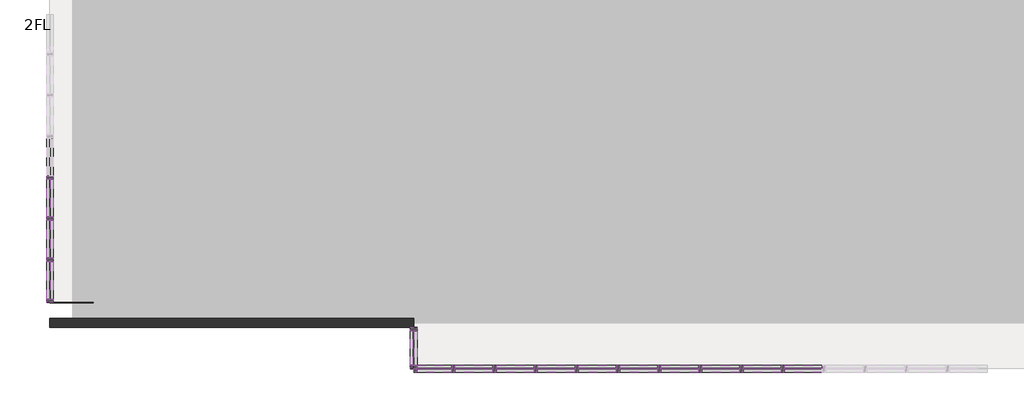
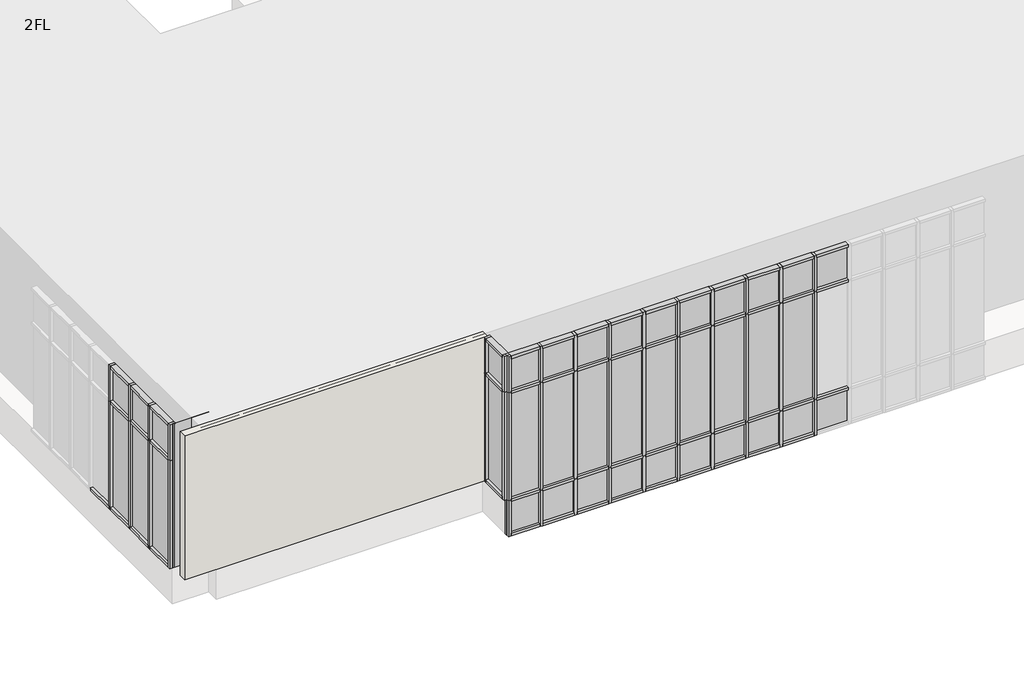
# One storey, part 1 of 4: 94 members, 39 plates, 1 wall.
"""IFC4 building model written with IfcOpenShell, lengths in millimetres."""

from ifc_helpers import new_model, si_unit, origin, place, context, project, spatial, faceted_brep, transform, mapped, element, save
from components import member_70x150_cdd4dcf9, member_70x150_9a135ce4, member_70x150_66cf63de, member_70x150_26475b18, member_70x150_ad4265bc, member_70x150_e0eddb57, member_70x150_1b280ac3, member_70x150_76429c73, plate_d1366ea1, plate_ab860a3c, plate_28587fd3, plate_4b01b467, plate_396bcf3c, plate_83f08a3e, plate_a71482e5, plate_3004b3b1

model = new_model("IFC4")

# Units and contexts
model_context = context("Model", 3, world=origin())
ifc_project = project(units=[si_unit("LENGTHUNIT", "METRE", prefix="MILLI")], contexts=[model_context])

# Site, building, storey
site = spatial("IfcSite", under=ifc_project)
building = spatial("IfcBuilding", under=site)
storey = spatial("IfcBuildingStorey", under=building, Name="2FL", Elevation=4600.0)

# Members
placement = place(None, origin())
member_70x150_shape = member_70x150_cdd4dcf9(model_context)
element("IfcMember", 1, ObjectType="長方形のマリオン : 70x150", at=placement, inside=storey, context=model_context, shape_type="MappedRepresentation", body=[
    mapped(member_70x150_shape, transform((-29345.9784025, -365.3131013, 4600.0), x_axis=(0.0, 1.0, 0.0), y_axis=(1.0, 0.0, 0.0), z_axis=(0.0, 0.0, -1.0))),
])
element("IfcMember", 2, ObjectType="長方形のマリオン : 70x150", at=placement, inside=storey, context=model_context, shape_type="MappedRepresentation", body=[
    mapped(member_70x150_shape, transform((-29345.9784025, -1265.3131013, 4600.0), x_axis=(0.0, 1.0, 0.0), y_axis=(1.0, 0.0, 0.0), z_axis=(0.0, 0.0, -1.0))),
])
element("IfcMember", 3, ObjectType="長方形のマリオン : 70x150", at=placement, inside=storey, context=model_context, shape_type="MappedRepresentation", body=[
    mapped(member_70x150_shape, transform((-29345.9784025, -2165.3131013, 4600.0), x_axis=(0.0, 1.0, 0.0), y_axis=(1.0, 0.0, 0.0), z_axis=(0.0, 0.0, -1.0))),
])
member_70x150_2_shape = member_70x150_9a135ce4(model_context)
element("IfcMember", 4, ObjectType="長方形のマリオン : 70x150", at=placement, inside=storey, context=model_context, shape_type="MappedRepresentation", body=[
    mapped(member_70x150_2_shape, transform((-21325.9784025, -4550.3131013, 8600.0), x_axis=(0.0, 0.0, 1.0), y_axis=(0.0, 1.0, 0.0), z_axis=(-1.0, 0.0, 0.0))),
])
element("IfcMember", 5, ObjectType="長方形のマリオン : 70x150", at=placement, inside=storey, context=model_context, shape_type="MappedRepresentation", body=[
    mapped(member_70x150_2_shape, transform((-21395.9784025, -3720.3131013, 8600.0), x_axis=(0.0, 0.0, 1.0), y_axis=(1.0, 0.0, 0.0), z_axis=(0.0, 1.0, 0.0))),
])
member_70x150_3_shape = member_70x150_66cf63de(model_context)
element("IfcMember", 6, ObjectType="長方形のマリオン : 70x150", at=placement, inside=storey, context=model_context, shape_type="MappedRepresentation", body=[
    mapped(member_70x150_3_shape, transform((-19665.9784025, -4550.3131013, 3600.0), x_axis=(0.0, 0.0, -1.0), y_axis=(0.0, 1.0, 0.0), z_axis=(1.0, 0.0, 0.0))),
])
element("IfcMember", 7, ObjectType="長方形のマリオン : 70x150", at=placement, inside=storey, context=model_context, shape_type="MappedRepresentation", body=[
    mapped(member_70x150_3_shape, transform((-18765.9784025, -4550.3131013, 3600.0), x_axis=(0.0, 0.0, -1.0), y_axis=(0.0, 1.0, 0.0), z_axis=(1.0, 0.0, 0.0))),
])
element("IfcMember", 8, ObjectType="長方形のマリオン : 70x150", at=placement, inside=storey, context=model_context, shape_type="MappedRepresentation", body=[
    mapped(member_70x150_3_shape, transform((-17865.9784025, -4550.3131013, 3600.0), x_axis=(0.0, 0.0, -1.0), y_axis=(0.0, 1.0, 0.0), z_axis=(1.0, 0.0, 0.0))),
])
element("IfcMember", 9, ObjectType="長方形のマリオン : 70x150", at=placement, inside=storey, context=model_context, shape_type="MappedRepresentation", body=[
    mapped(member_70x150_3_shape, transform((-16965.9784025, -4550.3131013, 3600.0), x_axis=(0.0, 0.0, -1.0), y_axis=(0.0, 1.0, 0.0), z_axis=(1.0, 0.0, 0.0))),
])
element("IfcMember", 10, ObjectType="長方形のマリオン : 70x150", at=placement, inside=storey, context=model_context, shape_type="MappedRepresentation", body=[
    mapped(member_70x150_3_shape, transform((-16065.9784025, -4550.3131013, 3600.0), x_axis=(0.0, 0.0, -1.0), y_axis=(0.0, 1.0, 0.0), z_axis=(1.0, 0.0, 0.0))),
])
element("IfcMember", 11, ObjectType="長方形のマリオン : 70x150", at=placement, inside=storey, context=model_context, shape_type="MappedRepresentation", body=[
    mapped(member_70x150_3_shape, transform((-15165.9784025, -4550.3131013, 3600.0), x_axis=(0.0, 0.0, -1.0), y_axis=(0.0, 1.0, 0.0), z_axis=(1.0, 0.0, 0.0))),
])
element("IfcMember", 12, ObjectType="長方形のマリオン : 70x150", at=placement, inside=storey, context=model_context, shape_type="MappedRepresentation", body=[
    mapped(member_70x150_3_shape, transform((-14265.9784025, -4550.3131013, 3600.0), x_axis=(0.0, 0.0, -1.0), y_axis=(0.0, 1.0, 0.0), z_axis=(1.0, 0.0, 0.0))),
])
element("IfcMember", 13, ObjectType="長方形のマリオン : 70x150", at=placement, inside=storey, context=model_context, shape_type="MappedRepresentation", body=[
    mapped(member_70x150_3_shape, transform((-13365.9784025, -4550.3131013, 3600.0), x_axis=(0.0, 0.0, -1.0), y_axis=(0.0, 1.0, 0.0), z_axis=(1.0, 0.0, 0.0))),
])
element("IfcMember", 14, ObjectType="長方形のマリオン : 70x150", at=placement, inside=storey, context=model_context, shape_type="MappedRepresentation", body=[
    mapped(member_70x150_3_shape, transform((-29345.9784025, -330.3131013, 4600.0), x_axis=(0.0, 0.0, -1.0), y_axis=(1.0, 0.0, 0.0), z_axis=(0.0, -1.0, 0.0))),
])
element("IfcMember", 15, ObjectType="長方形のマリオン : 70x150", at=placement, inside=storey, context=model_context, shape_type="MappedRepresentation", body=[
    mapped(member_70x150_3_shape, transform((-29345.9784025, -1230.3131013, 4600.0), x_axis=(0.0, 0.0, -1.0), y_axis=(1.0, 0.0, 0.0), z_axis=(0.0, -1.0, 0.0))),
])
element("IfcMember", 16, ObjectType="長方形のマリオン : 70x150", at=placement, inside=storey, context=model_context, shape_type="MappedRepresentation", body=[
    mapped(member_70x150_3_shape, transform((-29345.9784025, -2130.3131013, 4600.0), x_axis=(0.0, 0.0, -1.0), y_axis=(1.0, 0.0, 0.0), z_axis=(0.0, -1.0, 0.0))),
])
element("IfcMember", 17, ObjectType="長方形のマリオン : 70x150", at=placement, inside=storey, context=model_context, shape_type="MappedRepresentation", body=[
    mapped(member_70x150_3_shape, transform((-29345.9784025, -3030.3131013, 4600.0), x_axis=(0.0, 0.0, -1.0), y_axis=(1.0, 0.0, 0.0), z_axis=(0.0, -1.0, 0.0))),
])
element("IfcMember", 18, ObjectType="長方形のマリオン : 70x150", at=placement, inside=storey, context=model_context, shape_type="MappedRepresentation", body=[
    mapped(member_70x150_3_shape, transform((-20495.9784025, -4550.3131013, 8600.0), x_axis=(0.0, 0.0, 1.0), y_axis=(0.0, 1.0, 0.0), z_axis=(-1.0, 0.0, 0.0))),
])
element("IfcMember", 19, ObjectType="長方形のマリオン : 70x150", at=placement, inside=storey, context=model_context, shape_type="MappedRepresentation", body=[
    mapped(member_70x150_3_shape, transform((-19595.9784025, -4550.3131013, 8600.0), x_axis=(0.0, 0.0, 1.0), y_axis=(0.0, 1.0, 0.0), z_axis=(-1.0, 0.0, 0.0))),
])
element("IfcMember", 20, ObjectType="長方形のマリオン : 70x150", at=placement, inside=storey, context=model_context, shape_type="MappedRepresentation", body=[
    mapped(member_70x150_3_shape, transform((-18695.9784025, -4550.3131013, 8600.0), x_axis=(0.0, 0.0, 1.0), y_axis=(0.0, 1.0, 0.0), z_axis=(-1.0, 0.0, 0.0))),
])
element("IfcMember", 21, ObjectType="長方形のマリオン : 70x150", at=placement, inside=storey, context=model_context, shape_type="MappedRepresentation", body=[
    mapped(member_70x150_3_shape, transform((-17795.9784025, -4550.3131013, 8600.0), x_axis=(0.0, 0.0, 1.0), y_axis=(0.0, 1.0, 0.0), z_axis=(-1.0, 0.0, 0.0))),
])
element("IfcMember", 22, ObjectType="長方形のマリオン : 70x150", at=placement, inside=storey, context=model_context, shape_type="MappedRepresentation", body=[
    mapped(member_70x150_3_shape, transform((-16895.9784025, -4550.3131013, 8600.0), x_axis=(0.0, 0.0, 1.0), y_axis=(0.0, 1.0, 0.0), z_axis=(-1.0, 0.0, 0.0))),
])
element("IfcMember", 23, ObjectType="長方形のマリオン : 70x150", at=placement, inside=storey, context=model_context, shape_type="MappedRepresentation", body=[
    mapped(member_70x150_3_shape, transform((-15995.9784025, -4550.3131013, 8600.0), x_axis=(0.0, 0.0, 1.0), y_axis=(0.0, 1.0, 0.0), z_axis=(-1.0, 0.0, 0.0))),
])
element("IfcMember", 24, ObjectType="長方形のマリオン : 70x150", at=placement, inside=storey, context=model_context, shape_type="MappedRepresentation", body=[
    mapped(member_70x150_3_shape, transform((-15095.9784025, -4550.3131013, 8600.0), x_axis=(0.0, 0.0, 1.0), y_axis=(0.0, 1.0, 0.0), z_axis=(-1.0, 0.0, 0.0))),
])
element("IfcMember", 25, ObjectType="長方形のマリオン : 70x150", at=placement, inside=storey, context=model_context, shape_type="MappedRepresentation", body=[
    mapped(member_70x150_3_shape, transform((-14195.9784025, -4550.3131013, 8600.0), x_axis=(0.0, 0.0, 1.0), y_axis=(0.0, 1.0, 0.0), z_axis=(-1.0, 0.0, 0.0))),
])
element("IfcMember", 26, ObjectType="長方形のマリオン : 70x150", at=placement, inside=storey, context=model_context, shape_type="MappedRepresentation", body=[
    mapped(member_70x150_3_shape, transform((-13295.9784025, -4550.3131013, 8600.0), x_axis=(0.0, 0.0, 1.0), y_axis=(0.0, 1.0, 0.0), z_axis=(-1.0, 0.0, 0.0))),
])
element("IfcMember", 27, ObjectType="長方形のマリオン : 70x150", at=placement, inside=storey, context=model_context, shape_type="MappedRepresentation", body=[
    mapped(member_70x150_3_shape, transform((-29345.9784025, -400.3131013, 8600.0), x_axis=(0.0, 0.0, 1.0), y_axis=(1.0, 0.0, 0.0), z_axis=(0.0, 1.0, 0.0))),
])
element("IfcMember", 28, ObjectType="長方形のマリオン : 70x150", at=placement, inside=storey, context=model_context, shape_type="MappedRepresentation", body=[
    mapped(member_70x150_3_shape, transform((-29345.9784025, -1300.3131013, 8600.0), x_axis=(0.0, 0.0, 1.0), y_axis=(1.0, 0.0, 0.0), z_axis=(0.0, 1.0, 0.0))),
])
element("IfcMember", 29, ObjectType="長方形のマリオン : 70x150", at=placement, inside=storey, context=model_context, shape_type="MappedRepresentation", body=[
    mapped(member_70x150_3_shape, transform((-29345.9784025, -2200.3131013, 8600.0), x_axis=(0.0, 0.0, 1.0), y_axis=(1.0, 0.0, 0.0), z_axis=(0.0, 1.0, 0.0))),
])
element("IfcMember", 30, ObjectType="長方形のマリオン : 70x150", at=placement, inside=storey, context=model_context, shape_type="MappedRepresentation", body=[
    mapped(member_70x150_2_shape, transform((-20565.9784025, -4550.3131013, 3600.0), x_axis=(0.0, 0.0, -1.0), y_axis=(0.0, 1.0, 0.0), z_axis=(1.0, 0.0, 0.0))),
])
element("IfcMember", 31, ObjectType="長方形のマリオン : 70x150", at=placement, inside=storey, context=model_context, shape_type="MappedRepresentation", body=[
    mapped(member_70x150_2_shape, transform((-21395.9784025, -4480.3131013, 4600.0), x_axis=(0.0, 0.0, -1.0), y_axis=(1.0, 0.0, 0.0), z_axis=(0.0, -1.0, 0.0))),
])
member_70x150_4_shape = member_70x150_26475b18(model_context)
element("IfcMember", 32, ObjectType="長方形のマリオン : 70x150", at=placement, inside=storey, context=model_context, shape_type="MappedRepresentation", body=[
    mapped(member_70x150_4_shape, transform((-16030.9784025, -4550.3131013, 7600.0), x_axis=(-1.0, 0.0, 0.0), y_axis=(0.0, 1.0, 0.0), z_axis=(0.0, 0.0, -1.0))),
])
element("IfcMember", 33, ObjectType="長方形のマリオン : 70x150", at=placement, inside=storey, context=model_context, shape_type="MappedRepresentation", body=[
    mapped(member_70x150_4_shape, transform((-15130.9784025, -4550.3131013, 7600.0), x_axis=(-1.0, 0.0, 0.0), y_axis=(0.0, 1.0, 0.0), z_axis=(0.0, 0.0, -1.0))),
])
element("IfcMember", 34, ObjectType="長方形のマリオン : 70x150", at=placement, inside=storey, context=model_context, shape_type="MappedRepresentation", body=[
    mapped(member_70x150_4_shape, transform((-14230.9784025, -4550.3131013, 7600.0), x_axis=(-1.0, 0.0, 0.0), y_axis=(0.0, 1.0, 0.0), z_axis=(0.0, 0.0, -1.0))),
])
element("IfcMember", 35, ObjectType="長方形のマリオン : 70x150", at=placement, inside=storey, context=model_context, shape_type="MappedRepresentation", body=[
    mapped(member_70x150_4_shape, transform((-13330.9784025, -4550.3131013, 7600.0), x_axis=(-1.0, 0.0, 0.0), y_axis=(0.0, 1.0, 0.0), z_axis=(0.0, 0.0, -1.0))),
])
element("IfcMember", 36, ObjectType="長方形のマリオン : 70x150", at=placement, inside=storey, context=model_context, shape_type="MappedRepresentation", body=[
    mapped(member_70x150_4_shape, transform((-20530.9784025, -4550.3131013, 7600.0), x_axis=(-1.0, 0.0, 0.0), y_axis=(0.0, 1.0, 0.0), z_axis=(0.0, 0.0, -1.0))),
])
element("IfcMember", 37, ObjectType="長方形のマリオン : 70x150", at=placement, inside=storey, context=model_context, shape_type="MappedRepresentation", body=[
    mapped(member_70x150_4_shape, transform((-19630.9784025, -4550.3131013, 7600.0), x_axis=(-1.0, 0.0, 0.0), y_axis=(0.0, 1.0, 0.0), z_axis=(0.0, 0.0, -1.0))),
])
element("IfcMember", 38, ObjectType="長方形のマリオン : 70x150", at=placement, inside=storey, context=model_context, shape_type="MappedRepresentation", body=[
    mapped(member_70x150_4_shape, transform((-18730.9784025, -4550.3131013, 7600.0), x_axis=(-1.0, 0.0, 0.0), y_axis=(0.0, 1.0, 0.0), z_axis=(0.0, 0.0, -1.0))),
])
element("IfcMember", 39, ObjectType="長方形のマリオン : 70x150", at=placement, inside=storey, context=model_context, shape_type="MappedRepresentation", body=[
    mapped(member_70x150_4_shape, transform((-17830.9784025, -4550.3131013, 7600.0), x_axis=(-1.0, 0.0, 0.0), y_axis=(0.0, 1.0, 0.0), z_axis=(0.0, 0.0, -1.0))),
])
element("IfcMember", 40, ObjectType="長方形のマリオン : 70x150", at=placement, inside=storey, context=model_context, shape_type="MappedRepresentation", body=[
    mapped(member_70x150_4_shape, transform((-16930.9784025, -4550.3131013, 7600.0), x_axis=(-1.0, 0.0, 0.0), y_axis=(0.0, 1.0, 0.0), z_axis=(0.0, 0.0, -1.0))),
])
element("IfcMember", 41, ObjectType="長方形のマリオン : 70x150", at=placement, inside=storey, context=model_context, shape_type="MappedRepresentation", body=[
    mapped(member_70x150_4_shape, transform((-29345.9784025, -1265.3131013, 7600.0), x_axis=(0.0, 1.0, 0.0), y_axis=(1.0, 0.0, 0.0), z_axis=(0.0, 0.0, -1.0))),
])
element("IfcMember", 42, ObjectType="長方形のマリオン : 70x150", at=placement, inside=storey, context=model_context, shape_type="MappedRepresentation", body=[
    mapped(member_70x150_4_shape, transform((-29345.9784025, -2165.3131013, 7600.0), x_axis=(0.0, 1.0, 0.0), y_axis=(1.0, 0.0, 0.0), z_axis=(0.0, 0.0, -1.0))),
])
element("IfcMember", 43, ObjectType="長方形のマリオン : 70x150", at=placement, inside=storey, context=model_context, shape_type="MappedRepresentation", body=[
    mapped(member_70x150_4_shape, transform((-29345.9784025, -365.3131013, 7600.0), x_axis=(0.0, 1.0, 0.0), y_axis=(1.0, 0.0, 0.0), z_axis=(0.0, 0.0, -1.0))),
])
member_70x150_5_shape = member_70x150_ad4265bc(model_context)
element("IfcMember", 44, ObjectType="長方形のマリオン : 70x150", at=placement, inside=storey, context=model_context, shape_type="MappedRepresentation", body=[
    mapped(member_70x150_5_shape, transform((-16895.9784025, -4550.3131013, 4600.0), x_axis=(0.0, 0.0, 1.0), y_axis=(0.0, 1.0, 0.0), z_axis=(-1.0, 0.0, 0.0))),
])
element("IfcMember", 45, ObjectType="長方形のマリオン : 70x150", at=placement, inside=storey, context=model_context, shape_type="MappedRepresentation", body=[
    mapped(member_70x150_5_shape, transform((-15995.9784025, -4550.3131013, 4600.0), x_axis=(0.0, 0.0, 1.0), y_axis=(0.0, 1.0, 0.0), z_axis=(-1.0, 0.0, 0.0))),
])
element("IfcMember", 46, ObjectType="長方形のマリオン : 70x150", at=placement, inside=storey, context=model_context, shape_type="MappedRepresentation", body=[
    mapped(member_70x150_5_shape, transform((-15095.9784025, -4550.3131013, 4600.0), x_axis=(0.0, 0.0, 1.0), y_axis=(0.0, 1.0, 0.0), z_axis=(-1.0, 0.0, 0.0))),
])
element("IfcMember", 47, ObjectType="長方形のマリオン : 70x150", at=placement, inside=storey, context=model_context, shape_type="MappedRepresentation", body=[
    mapped(member_70x150_5_shape, transform((-14195.9784025, -4550.3131013, 4600.0), x_axis=(0.0, 0.0, 1.0), y_axis=(0.0, 1.0, 0.0), z_axis=(-1.0, 0.0, 0.0))),
])
element("IfcMember", 48, ObjectType="長方形のマリオン : 70x150", at=placement, inside=storey, context=model_context, shape_type="MappedRepresentation", body=[
    mapped(member_70x150_5_shape, transform((-13295.9784025, -4550.3131013, 4600.0), x_axis=(0.0, 0.0, 1.0), y_axis=(0.0, 1.0, 0.0), z_axis=(-1.0, 0.0, 0.0))),
])
element("IfcMember", 49, ObjectType="長方形のマリオン : 70x150", at=placement, inside=storey, context=model_context, shape_type="MappedRepresentation", body=[
    mapped(member_70x150_5_shape, transform((-20495.9784025, -4550.3131013, 7600.0), x_axis=(0.0, 0.0, 1.0), y_axis=(0.0, 1.0, 0.0), z_axis=(-1.0, 0.0, 0.0))),
])
element("IfcMember", 50, ObjectType="長方形のマリオン : 70x150", at=placement, inside=storey, context=model_context, shape_type="MappedRepresentation", body=[
    mapped(member_70x150_5_shape, transform((-19595.9784025, -4550.3131013, 7600.0), x_axis=(0.0, 0.0, 1.0), y_axis=(0.0, 1.0, 0.0), z_axis=(-1.0, 0.0, 0.0))),
])
element("IfcMember", 51, ObjectType="長方形のマリオン : 70x150", at=placement, inside=storey, context=model_context, shape_type="MappedRepresentation", body=[
    mapped(member_70x150_5_shape, transform((-18695.9784025, -4550.3131013, 7600.0), x_axis=(0.0, 0.0, 1.0), y_axis=(0.0, 1.0, 0.0), z_axis=(-1.0, 0.0, 0.0))),
])
element("IfcMember", 52, ObjectType="長方形のマリオン : 70x150", at=placement, inside=storey, context=model_context, shape_type="MappedRepresentation", body=[
    mapped(member_70x150_5_shape, transform((-17795.9784025, -4550.3131013, 7600.0), x_axis=(0.0, 0.0, 1.0), y_axis=(0.0, 1.0, 0.0), z_axis=(-1.0, 0.0, 0.0))),
])
element("IfcMember", 53, ObjectType="長方形のマリオン : 70x150", at=placement, inside=storey, context=model_context, shape_type="MappedRepresentation", body=[
    mapped(member_70x150_5_shape, transform((-16895.9784025, -4550.3131013, 7600.0), x_axis=(0.0, 0.0, 1.0), y_axis=(0.0, 1.0, 0.0), z_axis=(-1.0, 0.0, 0.0))),
])
element("IfcMember", 54, ObjectType="長方形のマリオン : 70x150", at=placement, inside=storey, context=model_context, shape_type="MappedRepresentation", body=[
    mapped(member_70x150_5_shape, transform((-15995.9784025, -4550.3131013, 7600.0), x_axis=(0.0, 0.0, 1.0), y_axis=(0.0, 1.0, 0.0), z_axis=(-1.0, 0.0, 0.0))),
])
element("IfcMember", 55, ObjectType="長方形のマリオン : 70x150", at=placement, inside=storey, context=model_context, shape_type="MappedRepresentation", body=[
    mapped(member_70x150_5_shape, transform((-15095.9784025, -4550.3131013, 7600.0), x_axis=(0.0, 0.0, 1.0), y_axis=(0.0, 1.0, 0.0), z_axis=(-1.0, 0.0, 0.0))),
])
element("IfcMember", 56, ObjectType="長方形のマリオン : 70x150", at=placement, inside=storey, context=model_context, shape_type="MappedRepresentation", body=[
    mapped(member_70x150_5_shape, transform((-14195.9784025, -4550.3131013, 7600.0), x_axis=(0.0, 0.0, 1.0), y_axis=(0.0, 1.0, 0.0), z_axis=(-1.0, 0.0, 0.0))),
])
element("IfcMember", 57, ObjectType="長方形のマリオン : 70x150", at=placement, inside=storey, context=model_context, shape_type="MappedRepresentation", body=[
    mapped(member_70x150_5_shape, transform((-13295.9784025, -4550.3131013, 7600.0), x_axis=(0.0, 0.0, 1.0), y_axis=(0.0, 1.0, 0.0), z_axis=(-1.0, 0.0, 0.0))),
])
element("IfcMember", 58, ObjectType="長方形のマリオン : 70x150", at=placement, inside=storey, context=model_context, shape_type="MappedRepresentation", body=[
    mapped(member_70x150_5_shape, transform((-20495.9784025, -4550.3131013, 4600.0), x_axis=(0.0, 0.0, 1.0), y_axis=(0.0, 1.0, 0.0), z_axis=(-1.0, 0.0, 0.0))),
])
element("IfcMember", 59, ObjectType="長方形のマリオン : 70x150", at=placement, inside=storey, context=model_context, shape_type="MappedRepresentation", body=[
    mapped(member_70x150_5_shape, transform((-19595.9784025, -4550.3131013, 4600.0), x_axis=(0.0, 0.0, 1.0), y_axis=(0.0, 1.0, 0.0), z_axis=(-1.0, 0.0, 0.0))),
])
element("IfcMember", 60, ObjectType="長方形のマリオン : 70x150", at=placement, inside=storey, context=model_context, shape_type="MappedRepresentation", body=[
    mapped(member_70x150_5_shape, transform((-18695.9784025, -4550.3131013, 4600.0), x_axis=(0.0, 0.0, 1.0), y_axis=(0.0, 1.0, 0.0), z_axis=(-1.0, 0.0, 0.0))),
])
element("IfcMember", 61, ObjectType="長方形のマリオン : 70x150", at=placement, inside=storey, context=model_context, shape_type="MappedRepresentation", body=[
    mapped(member_70x150_5_shape, transform((-17795.9784025, -4550.3131013, 4600.0), x_axis=(0.0, 0.0, 1.0), y_axis=(0.0, 1.0, 0.0), z_axis=(-1.0, 0.0, 0.0))),
])
element("IfcMember", 62, ObjectType="長方形のマリオン : 70x150", at=placement, inside=storey, context=model_context, shape_type="MappedRepresentation", body=[
    mapped(member_70x150_5_shape, transform((-29345.9784025, -400.3131013, 7600.0), x_axis=(0.0, 0.0, 1.0), y_axis=(1.0, 0.0, 0.0), z_axis=(0.0, 1.0, 0.0))),
])
element("IfcMember", 63, ObjectType="長方形のマリオン : 70x150", at=placement, inside=storey, context=model_context, shape_type="MappedRepresentation", body=[
    mapped(member_70x150_5_shape, transform((-29345.9784025, -1300.3131013, 7600.0), x_axis=(0.0, 0.0, 1.0), y_axis=(1.0, 0.0, 0.0), z_axis=(0.0, 1.0, 0.0))),
])
element("IfcMember", 64, ObjectType="長方形のマリオン : 70x150", at=placement, inside=storey, context=model_context, shape_type="MappedRepresentation", body=[
    mapped(member_70x150_5_shape, transform((-29345.9784025, -2200.3131013, 7600.0), x_axis=(0.0, 0.0, 1.0), y_axis=(1.0, 0.0, 0.0), z_axis=(0.0, 1.0, 0.0))),
])
member_70x150_6_shape = member_70x150_e0eddb57(model_context)
element("IfcMember", 65, ObjectType="長方形のマリオン : 70x150", at=placement, inside=storey, context=model_context, shape_type="MappedRepresentation", body=[
    mapped(member_70x150_6_shape, transform((-21325.9784025, -4550.3131013, 7600.0), x_axis=(0.0, 0.0, 1.0), y_axis=(0.0, 1.0, 0.0), z_axis=(-1.0, 0.0, 0.0))),
])
element("IfcMember", 66, ObjectType="長方形のマリオン : 70x150", at=placement, inside=storey, context=model_context, shape_type="MappedRepresentation", body=[
    mapped(member_70x150_6_shape, transform((-21325.9784025, -4550.3131013, 4600.0), x_axis=(0.0, 0.0, 1.0), y_axis=(0.0, 1.0, 0.0), z_axis=(-1.0, 0.0, 0.0))),
])
element("IfcMember", 67, ObjectType="長方形のマリオン : 70x150", at=placement, inside=storey, context=model_context, shape_type="MappedRepresentation", body=[
    mapped(member_70x150_6_shape, transform((-21395.9784025, -3720.3131013, 7600.0), x_axis=(0.0, 0.0, 1.0), y_axis=(1.0, 0.0, 0.0), z_axis=(0.0, 1.0, 0.0))),
])
member_70x150_7_shape = member_70x150_1b280ac3(model_context)
element("IfcMember", 68, ObjectType="長方形のマリオン : 70x150", at=placement, inside=storey, context=model_context, shape_type="MappedRepresentation", body=[
    mapped(member_70x150_7_shape, transform((-21395.9784025, -3650.3131013, 4600.0), x_axis=(0.0, 1.0, 0.0), y_axis=(1.0, 0.0, 0.0), z_axis=(0.0, 0.0, -1.0))),
])
member_70x150_8_shape = member_70x150_76429c73(model_context)
element("IfcMember", 69, ObjectType="長方形のマリオン : 70x150", at=placement, inside=storey, context=model_context, shape_type="MappedRepresentation", body=[
    mapped(member_70x150_8_shape, transform((-21395.9784025, -4550.3131013, 8600.0), x_axis=(0.0, -1.0, 0.0), y_axis=(1.0, 0.0, 0.0), z_axis=(0.0, 0.0, 1.0))),
])
element("IfcMember", 70, ObjectType="長方形のマリオン : 70x150", at=placement, inside=storey, context=model_context, shape_type="MappedRepresentation", body=[
    mapped(member_70x150_8_shape, transform((-29345.9784025, -3100.3131013, 8600.0), x_axis=(0.0, -1.0, 0.0), y_axis=(1.0, 0.0, 0.0), z_axis=(0.0, 0.0, 1.0))),
])
element("IfcMember", 71, ObjectType="長方形のマリオン : 70x150", at=placement, inside=storey, context=model_context, shape_type="MappedRepresentation", body=[
    mapped(member_70x150_8_shape, transform((-21395.9784025, -4550.3131013, 7600.0), x_axis=(-1.0, 0.0, 0.0), y_axis=(0.0, 1.0, 0.0), z_axis=(0.0, 0.0, -1.0))),
])
element("IfcMember", 72, ObjectType="長方形のマリオン : 70x150", at=placement, inside=storey, context=model_context, shape_type="MappedRepresentation", body=[
    mapped(member_70x150_8_shape, transform((-21395.9784025, -3650.3131013, 7600.0), x_axis=(0.0, 1.0, 0.0), y_axis=(1.0, 0.0, 0.0), z_axis=(0.0, 0.0, -1.0))),
])
element("IfcMember", 73, ObjectType="長方形のマリオン : 70x150", at=placement, inside=storey, context=model_context, shape_type="MappedRepresentation", body=[
    mapped(member_70x150_7_shape, transform((-21395.9784025, -4550.3131013, 7600.0), x_axis=(0.0, -1.0, 0.0), y_axis=(1.0, 0.0, 0.0), z_axis=(0.0, 0.0, 1.0))),
])
element("IfcMember", 74, ObjectType="長方形のマリオン : 70x150", at=placement, inside=storey, context=model_context, shape_type="MappedRepresentation", body=[
    mapped(member_70x150_7_shape, transform((-29345.9784025, -3100.3131013, 7600.0), x_axis=(0.0, -1.0, 0.0), y_axis=(1.0, 0.0, 0.0), z_axis=(0.0, 0.0, 1.0))),
])
element("IfcMember", 75, ObjectType="長方形のマリオン : 70x150", at=placement, inside=storey, context=model_context, shape_type="MappedRepresentation", body=[
    mapped(member_70x150_4_shape, transform((-20530.9784025, -4550.3131013, 3600.0), x_axis=(-1.0, 0.0, 0.0), y_axis=(0.0, 1.0, 0.0), z_axis=(0.0, 0.0, -1.0))),
])
element("IfcMember", 76, ObjectType="長方形のマリオン : 70x150", at=placement, inside=storey, context=model_context, shape_type="MappedRepresentation", body=[
    mapped(member_70x150_4_shape, transform((-19630.9784025, -4550.3131013, 3600.0), x_axis=(-1.0, 0.0, 0.0), y_axis=(0.0, 1.0, 0.0), z_axis=(0.0, 0.0, -1.0))),
])
element("IfcMember", 77, ObjectType="長方形のマリオン : 70x150", at=placement, inside=storey, context=model_context, shape_type="MappedRepresentation", body=[
    mapped(member_70x150_4_shape, transform((-18730.9784025, -4550.3131013, 3600.0), x_axis=(-1.0, 0.0, 0.0), y_axis=(0.0, 1.0, 0.0), z_axis=(0.0, 0.0, -1.0))),
])
element("IfcMember", 78, ObjectType="長方形のマリオン : 70x150", at=placement, inside=storey, context=model_context, shape_type="MappedRepresentation", body=[
    mapped(member_70x150_4_shape, transform((-17830.9784025, -4550.3131013, 3600.0), x_axis=(-1.0, 0.0, 0.0), y_axis=(0.0, 1.0, 0.0), z_axis=(0.0, 0.0, -1.0))),
])
element("IfcMember", 79, ObjectType="長方形のマリオン : 70x150", at=placement, inside=storey, context=model_context, shape_type="MappedRepresentation", body=[
    mapped(member_70x150_4_shape, transform((-16930.9784025, -4550.3131013, 3600.0), x_axis=(-1.0, 0.0, 0.0), y_axis=(0.0, 1.0, 0.0), z_axis=(0.0, 0.0, -1.0))),
])
element("IfcMember", 80, ObjectType="長方形のマリオン : 70x150", at=placement, inside=storey, context=model_context, shape_type="MappedRepresentation", body=[
    mapped(member_70x150_4_shape, transform((-16030.9784025, -4550.3131013, 3600.0), x_axis=(-1.0, 0.0, 0.0), y_axis=(0.0, 1.0, 0.0), z_axis=(0.0, 0.0, -1.0))),
])
element("IfcMember", 81, ObjectType="長方形のマリオン : 70x150", at=placement, inside=storey, context=model_context, shape_type="MappedRepresentation", body=[
    mapped(member_70x150_4_shape, transform((-15130.9784025, -4550.3131013, 3600.0), x_axis=(-1.0, 0.0, 0.0), y_axis=(0.0, 1.0, 0.0), z_axis=(0.0, 0.0, -1.0))),
])
element("IfcMember", 82, ObjectType="長方形のマリオン : 70x150", at=placement, inside=storey, context=model_context, shape_type="MappedRepresentation", body=[
    mapped(member_70x150_4_shape, transform((-14230.9784025, -4550.3131013, 3600.0), x_axis=(-1.0, 0.0, 0.0), y_axis=(0.0, 1.0, 0.0), z_axis=(0.0, 0.0, -1.0))),
])
element("IfcMember", 83, ObjectType="長方形のマリオン : 70x150", at=placement, inside=storey, context=model_context, shape_type="MappedRepresentation", body=[
    mapped(member_70x150_4_shape, transform((-13330.9784025, -4550.3131013, 3600.0), x_axis=(-1.0, 0.0, 0.0), y_axis=(0.0, 1.0, 0.0), z_axis=(0.0, 0.0, -1.0))),
])
element("IfcMember", 84, ObjectType="長方形のマリオン : 70x150", at=placement, inside=storey, context=model_context, shape_type="MappedRepresentation", body=[
    mapped(member_70x150_shape, transform((-16030.9784025, -4550.3131013, 4600.0), x_axis=(-1.0, 0.0, 0.0), y_axis=(0.0, 1.0, 0.0), z_axis=(0.0, 0.0, -1.0))),
])
element("IfcMember", 85, ObjectType="長方形のマリオン : 70x150", at=placement, inside=storey, context=model_context, shape_type="MappedRepresentation", body=[
    mapped(member_70x150_shape, transform((-15130.9784025, -4550.3131013, 4600.0), x_axis=(-1.0, 0.0, 0.0), y_axis=(0.0, 1.0, 0.0), z_axis=(0.0, 0.0, -1.0))),
])
element("IfcMember", 86, ObjectType="長方形のマリオン : 70x150", at=placement, inside=storey, context=model_context, shape_type="MappedRepresentation", body=[
    mapped(member_70x150_shape, transform((-14230.9784025, -4550.3131013, 4600.0), x_axis=(-1.0, 0.0, 0.0), y_axis=(0.0, 1.0, 0.0), z_axis=(0.0, 0.0, -1.0))),
])
element("IfcMember", 87, ObjectType="長方形のマリオン : 70x150", at=placement, inside=storey, context=model_context, shape_type="MappedRepresentation", body=[
    mapped(member_70x150_shape, transform((-13330.9784025, -4550.3131013, 4600.0), x_axis=(-1.0, 0.0, 0.0), y_axis=(0.0, 1.0, 0.0), z_axis=(0.0, 0.0, -1.0))),
])
element("IfcMember", 88, ObjectType="長方形のマリオン : 70x150", at=placement, inside=storey, context=model_context, shape_type="MappedRepresentation", body=[
    mapped(member_70x150_shape, transform((-20530.9784025, -4550.3131013, 4600.0), x_axis=(-1.0, 0.0, 0.0), y_axis=(0.0, 1.0, 0.0), z_axis=(0.0, 0.0, -1.0))),
])
element("IfcMember", 89, ObjectType="長方形のマリオン : 70x150", at=placement, inside=storey, context=model_context, shape_type="MappedRepresentation", body=[
    mapped(member_70x150_shape, transform((-19630.9784025, -4550.3131013, 4600.0), x_axis=(-1.0, 0.0, 0.0), y_axis=(0.0, 1.0, 0.0), z_axis=(0.0, 0.0, -1.0))),
])
element("IfcMember", 90, ObjectType="長方形のマリオン : 70x150", at=placement, inside=storey, context=model_context, shape_type="MappedRepresentation", body=[
    mapped(member_70x150_shape, transform((-18730.9784025, -4550.3131013, 4600.0), x_axis=(-1.0, 0.0, 0.0), y_axis=(0.0, 1.0, 0.0), z_axis=(0.0, 0.0, -1.0))),
])
element("IfcMember", 91, ObjectType="長方形のマリオン : 70x150", at=placement, inside=storey, context=model_context, shape_type="MappedRepresentation", body=[
    mapped(member_70x150_shape, transform((-17830.9784025, -4550.3131013, 4600.0), x_axis=(-1.0, 0.0, 0.0), y_axis=(0.0, 1.0, 0.0), z_axis=(0.0, 0.0, -1.0))),
])
element("IfcMember", 92, ObjectType="長方形のマリオン : 70x150", at=placement, inside=storey, context=model_context, shape_type="MappedRepresentation", body=[
    mapped(member_70x150_shape, transform((-16930.9784025, -4550.3131013, 4600.0), x_axis=(-1.0, 0.0, 0.0), y_axis=(0.0, 1.0, 0.0), z_axis=(0.0, 0.0, -1.0))),
])
element("IfcMember", 93, ObjectType="長方形のマリオン : 70x150", at=placement, inside=storey, context=model_context, shape_type="MappedRepresentation", body=[
    mapped(member_70x150_8_shape, transform((-21395.9784025, -4550.3131013, 3600.0), x_axis=(-1.0, 0.0, 0.0), y_axis=(0.0, 1.0, 0.0), z_axis=(0.0, 0.0, -1.0))),
])
element("IfcMember", 94, ObjectType="長方形のマリオン : 70x150", at=placement, inside=storey, context=model_context, shape_type="MappedRepresentation", body=[
    mapped(member_70x150_7_shape, transform((-21395.9784025, -4550.3131013, 4600.0), x_axis=(-1.0, 0.0, 0.0), y_axis=(0.0, 1.0, 0.0), z_axis=(0.0, 0.0, -1.0))),
])

# Plates
plate_shape = plate_d1366ea1(model_context)
element("IfcPlate", 95, ObjectType="システム パネル : 標準", at=placement, inside=storey, context=model_context, shape_type="MappedRepresentation", body=[
    mapped(plate_shape, transform((-28845.9784025, -3100.3131013, 4600.0), x_axis=(-1.0, 0.0, 0.0), y_axis=(0.0, -1.0, 0.0), z_axis=(0.0, 0.0, 1.0))),
])
plate_2_shape = plate_ab860a3c(model_context)
element("IfcPlate", 96, ObjectType="システム パネル : 標準", at=placement, inside=storey, context=model_context, shape_type="MappedRepresentation", body=[
    mapped(plate_2_shape, transform((-29320.9784025, -3100.3131013, 4600.0), x_axis=(-1.0, 0.0, 0.0), y_axis=(0.0, -1.0, 0.0), z_axis=(0.0, 0.0, 1.0))),
])
plate_3_shape = plate_28587fd3(model_context)
element("IfcPlate", 97, ObjectType="システム パネル : 標準", at=placement, inside=storey, context=model_context, shape_type="MappedRepresentation", body=[
    mapped(plate_3_shape, transform((-29345.9784025, -2615.3131013, 4670.0), x_axis=(0.0, 1.0, 0.0), y_axis=(-1.0, 0.0, 0.0), z_axis=(0.0, 0.0, 1.0))),
])
element("IfcPlate", 98, ObjectType="システム パネル : 標準", at=placement, inside=storey, context=model_context, shape_type="MappedRepresentation", body=[
    mapped(plate_3_shape, transform((-29345.9784025, -1715.3131013, 4670.0), x_axis=(0.0, 1.0, 0.0), y_axis=(-1.0, 0.0, 0.0), z_axis=(0.0, 0.0, 1.0))),
])
element("IfcPlate", 99, ObjectType="システム パネル : 標準", at=placement, inside=storey, context=model_context, shape_type="MappedRepresentation", body=[
    mapped(plate_3_shape, transform((-29345.9784025, -815.3131013, 4670.0), x_axis=(0.0, 1.0, 0.0), y_axis=(-1.0, 0.0, 0.0), z_axis=(0.0, 0.0, 1.0))),
])
plate_4_shape = plate_4b01b467(model_context)
element("IfcPlate", 100, ObjectType="システム パネル : 標準", at=placement, inside=storey, context=model_context, shape_type="MappedRepresentation", body=[
    mapped(plate_4_shape, transform((-21395.9784025, -4100.3131013, 4670.0), x_axis=(0.0, 1.0, 0.0), y_axis=(-1.0, 0.0, 0.0), z_axis=(0.0, 0.0, 1.0))),
])
plate_5_shape = plate_396bcf3c(model_context)
element("IfcPlate", 101, ObjectType="システム パネル : 標準", at=placement, inside=storey, context=model_context, shape_type="MappedRepresentation", body=[
    mapped(plate_5_shape, transform((-12880.9784025, -4550.3131013, 3670.0), x_axis=(-1.0, 0.0, 0.0), y_axis=(0.0, -1.0, 0.0), z_axis=(0.0, 0.0, 1.0))),
])
element("IfcPlate", 102, ObjectType="システム パネル : 標準", at=placement, inside=storey, context=model_context, shape_type="MappedRepresentation", body=[
    mapped(plate_5_shape, transform((-13780.9784025, -4550.3131013, 3670.0), x_axis=(-1.0, 0.0, 0.0), y_axis=(0.0, -1.0, 0.0), z_axis=(0.0, 0.0, 1.0))),
])
element("IfcPlate", 103, ObjectType="システム パネル : 標準", at=placement, inside=storey, context=model_context, shape_type="MappedRepresentation", body=[
    mapped(plate_5_shape, transform((-14680.9784025, -4550.3131013, 3670.0), x_axis=(-1.0, 0.0, 0.0), y_axis=(0.0, -1.0, 0.0), z_axis=(0.0, 0.0, 1.0))),
])
element("IfcPlate", 104, ObjectType="システム パネル : 標準", at=placement, inside=storey, context=model_context, shape_type="MappedRepresentation", body=[
    mapped(plate_5_shape, transform((-15580.9784025, -4550.3131013, 3670.0), x_axis=(-1.0, 0.0, 0.0), y_axis=(0.0, -1.0, 0.0), z_axis=(0.0, 0.0, 1.0))),
])
element("IfcPlate", 105, ObjectType="システム パネル : 標準", at=placement, inside=storey, context=model_context, shape_type="MappedRepresentation", body=[
    mapped(plate_5_shape, transform((-16480.9784025, -4550.3131013, 3670.0), x_axis=(-1.0, 0.0, 0.0), y_axis=(0.0, -1.0, 0.0), z_axis=(0.0, 0.0, 1.0))),
])
element("IfcPlate", 106, ObjectType="システム パネル : 標準", at=placement, inside=storey, context=model_context, shape_type="MappedRepresentation", body=[
    mapped(plate_5_shape, transform((-17380.9784025, -4550.3131013, 3670.0), x_axis=(-1.0, 0.0, 0.0), y_axis=(0.0, -1.0, 0.0), z_axis=(0.0, 0.0, 1.0))),
])
element("IfcPlate", 107, ObjectType="システム パネル : 標準", at=placement, inside=storey, context=model_context, shape_type="MappedRepresentation", body=[
    mapped(plate_5_shape, transform((-18280.9784025, -4550.3131013, 3670.0), x_axis=(-1.0, 0.0, 0.0), y_axis=(0.0, -1.0, 0.0), z_axis=(0.0, 0.0, 1.0))),
])
element("IfcPlate", 108, ObjectType="システム パネル : 標準", at=placement, inside=storey, context=model_context, shape_type="MappedRepresentation", body=[
    mapped(plate_5_shape, transform((-19180.9784025, -4550.3131013, 3670.0), x_axis=(-1.0, 0.0, 0.0), y_axis=(0.0, -1.0, 0.0), z_axis=(0.0, 0.0, 1.0))),
])
element("IfcPlate", 109, ObjectType="システム パネル : 標準", at=placement, inside=storey, context=model_context, shape_type="MappedRepresentation", body=[
    mapped(plate_5_shape, transform((-20080.9784025, -4550.3131013, 3670.0), x_axis=(-1.0, 0.0, 0.0), y_axis=(0.0, -1.0, 0.0), z_axis=(0.0, 0.0, 1.0))),
])
element("IfcPlate", 110, ObjectType="システム パネル : 標準", at=placement, inside=storey, context=model_context, shape_type="MappedRepresentation", body=[
    mapped(plate_5_shape, transform((-12880.9784025, -4550.3131013, 7635.0), x_axis=(-1.0, 0.0, 0.0), y_axis=(0.0, -1.0, 0.0), z_axis=(0.0, 0.0, 1.0))),
])
element("IfcPlate", 111, ObjectType="システム パネル : 標準", at=placement, inside=storey, context=model_context, shape_type="MappedRepresentation", body=[
    mapped(plate_5_shape, transform((-13780.9784025, -4550.3131013, 7635.0), x_axis=(-1.0, 0.0, 0.0), y_axis=(0.0, -1.0, 0.0), z_axis=(0.0, 0.0, 1.0))),
])
element("IfcPlate", 112, ObjectType="システム パネル : 標準", at=placement, inside=storey, context=model_context, shape_type="MappedRepresentation", body=[
    mapped(plate_5_shape, transform((-14680.9784025, -4550.3131013, 7635.0), x_axis=(-1.0, 0.0, 0.0), y_axis=(0.0, -1.0, 0.0), z_axis=(0.0, 0.0, 1.0))),
])
element("IfcPlate", 113, ObjectType="システム パネル : 標準", at=placement, inside=storey, context=model_context, shape_type="MappedRepresentation", body=[
    mapped(plate_5_shape, transform((-15580.9784025, -4550.3131013, 7635.0), x_axis=(-1.0, 0.0, 0.0), y_axis=(0.0, -1.0, 0.0), z_axis=(0.0, 0.0, 1.0))),
])
element("IfcPlate", 114, ObjectType="システム パネル : 標準", at=placement, inside=storey, context=model_context, shape_type="MappedRepresentation", body=[
    mapped(plate_5_shape, transform((-16480.9784025, -4550.3131013, 7635.0), x_axis=(-1.0, 0.0, 0.0), y_axis=(0.0, -1.0, 0.0), z_axis=(0.0, 0.0, 1.0))),
])
element("IfcPlate", 115, ObjectType="システム パネル : 標準", at=placement, inside=storey, context=model_context, shape_type="MappedRepresentation", body=[
    mapped(plate_5_shape, transform((-17380.9784025, -4550.3131013, 7635.0), x_axis=(-1.0, 0.0, 0.0), y_axis=(0.0, -1.0, 0.0), z_axis=(0.0, 0.0, 1.0))),
])
element("IfcPlate", 116, ObjectType="システム パネル : 標準", at=placement, inside=storey, context=model_context, shape_type="MappedRepresentation", body=[
    mapped(plate_5_shape, transform((-18280.9784025, -4550.3131013, 7635.0), x_axis=(-1.0, 0.0, 0.0), y_axis=(0.0, -1.0, 0.0), z_axis=(0.0, 0.0, 1.0))),
])
element("IfcPlate", 117, ObjectType="システム パネル : 標準", at=placement, inside=storey, context=model_context, shape_type="MappedRepresentation", body=[
    mapped(plate_5_shape, transform((-19180.9784025, -4550.3131013, 7635.0), x_axis=(-1.0, 0.0, 0.0), y_axis=(0.0, -1.0, 0.0), z_axis=(0.0, 0.0, 1.0))),
])
element("IfcPlate", 118, ObjectType="システム パネル : 標準", at=placement, inside=storey, context=model_context, shape_type="MappedRepresentation", body=[
    mapped(plate_5_shape, transform((-20080.9784025, -4550.3131013, 7635.0), x_axis=(-1.0, 0.0, 0.0), y_axis=(0.0, -1.0, 0.0), z_axis=(0.0, 0.0, 1.0))),
])
element("IfcPlate", 119, ObjectType="システム パネル : 標準", at=placement, inside=storey, context=model_context, shape_type="MappedRepresentation", body=[
    mapped(plate_5_shape, transform((-29345.9784025, -2615.3131013, 7635.0), x_axis=(0.0, 1.0, 0.0), y_axis=(-1.0, 0.0, 0.0), z_axis=(0.0, 0.0, 1.0))),
])
element("IfcPlate", 120, ObjectType="システム パネル : 標準", at=placement, inside=storey, context=model_context, shape_type="MappedRepresentation", body=[
    mapped(plate_5_shape, transform((-29345.9784025, -1715.3131013, 7635.0), x_axis=(0.0, 1.0, 0.0), y_axis=(-1.0, 0.0, 0.0), z_axis=(0.0, 0.0, 1.0))),
])
element("IfcPlate", 121, ObjectType="システム パネル : 標準", at=placement, inside=storey, context=model_context, shape_type="MappedRepresentation", body=[
    mapped(plate_5_shape, transform((-29345.9784025, -815.3131013, 7635.0), x_axis=(0.0, 1.0, 0.0), y_axis=(-1.0, 0.0, 0.0), z_axis=(0.0, 0.0, 1.0))),
])
plate_6_shape = plate_83f08a3e(model_context)
element("IfcPlate", 122, ObjectType="システム パネル : 標準", at=placement, inside=storey, context=model_context, shape_type="MappedRepresentation", body=[
    mapped(plate_6_shape, transform((-20945.9784025, -4550.3131013, 3670.0), x_axis=(-1.0, 0.0, 0.0), y_axis=(0.0, -1.0, 0.0), z_axis=(0.0, 0.0, 1.0))),
])
element("IfcPlate", 123, ObjectType="システム パネル : 標準", at=placement, inside=storey, context=model_context, shape_type="MappedRepresentation", body=[
    mapped(plate_6_shape, transform((-20945.9784025, -4550.3131013, 7635.0), x_axis=(-1.0, 0.0, 0.0), y_axis=(0.0, -1.0, 0.0), z_axis=(0.0, 0.0, 1.0))),
])
element("IfcPlate", 124, ObjectType="システム パネル : 標準", at=placement, inside=storey, context=model_context, shape_type="MappedRepresentation", body=[
    mapped(plate_6_shape, transform((-21395.9784025, -4100.3131013, 7635.0), x_axis=(0.0, 1.0, 0.0), y_axis=(-1.0, 0.0, 0.0), z_axis=(0.0, 0.0, 1.0))),
])
plate_7_shape = plate_a71482e5(model_context)
element("IfcPlate", 125, ObjectType="システム パネル : 標準", at=placement, inside=storey, context=model_context, shape_type="MappedRepresentation", body=[
    mapped(plate_7_shape, transform((-13780.9784025, -4550.3131013, 4635.0), x_axis=(-1.0, 0.0, 0.0), y_axis=(0.0, -1.0, 0.0), z_axis=(0.0, 0.0, 1.0))),
])
element("IfcPlate", 126, ObjectType="システム パネル : 標準", at=placement, inside=storey, context=model_context, shape_type="MappedRepresentation", body=[
    mapped(plate_7_shape, transform((-14680.9784025, -4550.3131013, 4635.0), x_axis=(-1.0, 0.0, 0.0), y_axis=(0.0, -1.0, 0.0), z_axis=(0.0, 0.0, 1.0))),
])
element("IfcPlate", 127, ObjectType="システム パネル : 標準", at=placement, inside=storey, context=model_context, shape_type="MappedRepresentation", body=[
    mapped(plate_7_shape, transform((-15580.9784025, -4550.3131013, 4635.0), x_axis=(-1.0, 0.0, 0.0), y_axis=(0.0, -1.0, 0.0), z_axis=(0.0, 0.0, 1.0))),
])
element("IfcPlate", 128, ObjectType="システム パネル : 標準", at=placement, inside=storey, context=model_context, shape_type="MappedRepresentation", body=[
    mapped(plate_7_shape, transform((-16480.9784025, -4550.3131013, 4635.0), x_axis=(-1.0, 0.0, 0.0), y_axis=(0.0, -1.0, 0.0), z_axis=(0.0, 0.0, 1.0))),
])
element("IfcPlate", 129, ObjectType="システム パネル : 標準", at=placement, inside=storey, context=model_context, shape_type="MappedRepresentation", body=[
    mapped(plate_7_shape, transform((-17380.9784025, -4550.3131013, 4635.0), x_axis=(-1.0, 0.0, 0.0), y_axis=(0.0, -1.0, 0.0), z_axis=(0.0, 0.0, 1.0))),
])
element("IfcPlate", 130, ObjectType="システム パネル : 標準", at=placement, inside=storey, context=model_context, shape_type="MappedRepresentation", body=[
    mapped(plate_7_shape, transform((-18280.9784025, -4550.3131013, 4635.0), x_axis=(-1.0, 0.0, 0.0), y_axis=(0.0, -1.0, 0.0), z_axis=(0.0, 0.0, 1.0))),
])
element("IfcPlate", 131, ObjectType="システム パネル : 標準", at=placement, inside=storey, context=model_context, shape_type="MappedRepresentation", body=[
    mapped(plate_7_shape, transform((-19180.9784025, -4550.3131013, 4635.0), x_axis=(-1.0, 0.0, 0.0), y_axis=(0.0, -1.0, 0.0), z_axis=(0.0, 0.0, 1.0))),
])
element("IfcPlate", 132, ObjectType="システム パネル : 標準", at=placement, inside=storey, context=model_context, shape_type="MappedRepresentation", body=[
    mapped(plate_7_shape, transform((-20080.9784025, -4550.3131013, 4635.0), x_axis=(-1.0, 0.0, 0.0), y_axis=(0.0, -1.0, 0.0), z_axis=(0.0, 0.0, 1.0))),
])
plate_8_shape = plate_3004b3b1(model_context)
element("IfcPlate", 133, ObjectType="システム パネル : 標準", at=placement, inside=storey, context=model_context, shape_type="MappedRepresentation", body=[
    mapped(plate_8_shape, transform((-20945.9784025, -4550.3131013, 4635.0), x_axis=(-1.0, 0.0, 0.0), y_axis=(0.0, -1.0, 0.0), z_axis=(0.0, 0.0, 1.0))),
])

# Wall
element("IfcWall", 134, ObjectType="標準200", at=placement, inside=storey, context=model_context, shape_type="Brep", body=[
    faceted_brep([(-21395.9784025, -3450.3131013, 4600.0), (-21845.9784025, -3450.3131013, 4600.0), (-27945.9784025, -3450.3131013, 4600.0), (-28845.9784025, -3450.3131013, 4600.0), (-29345.9784025, -3450.3131013, 4600.0), (-29345.9784025, -3450.3131013, 8600.0), (-21395.9784025, -3450.3131013, 8600.0), (-21395.9784025, -3650.3131013, 4600.0), (-21395.9784025, -3650.3131013, 8600.0), (-29345.9784025, -3650.3131013, 8600.0), (-29345.9784025, -3650.3131013, 4600.0), (-21395.9784025, -3550.3131013, 4600.0)], [[[0, 1, 2, 3, 4, 5, 6]], [[7, 8, 9, 10]], [[4, 3, 2, 1, 0, 11, 7, 10]], [[5, 4, 10, 9]], [[6, 5, 9, 8]], [[0, 6, 8, 7, 11]]]),
])

save(model, "model.ifc")
